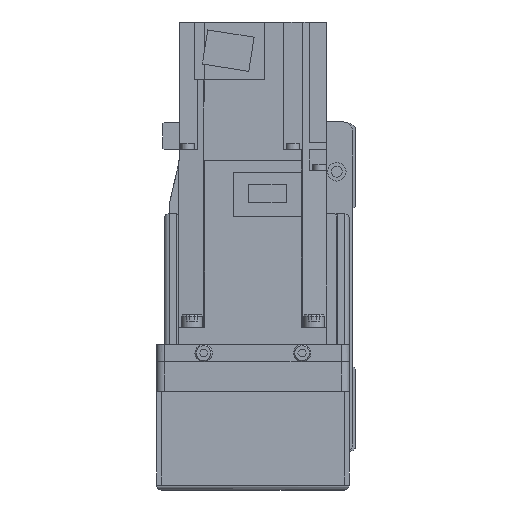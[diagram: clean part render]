
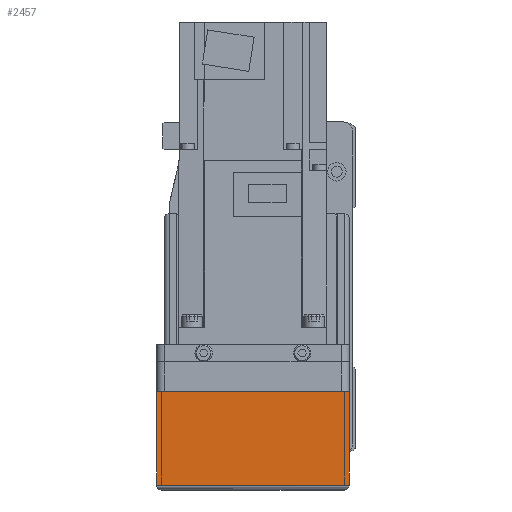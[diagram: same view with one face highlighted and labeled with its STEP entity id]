
A CAD part, left-side view. The second image highlights one B-rep face of the part: STEP entity #2457.
In plain terms, the highlighted planar face has unit normal (-1, 0, 0).
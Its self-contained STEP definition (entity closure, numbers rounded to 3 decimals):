
#2457 = ADVANCED_FACE( '', ( #5340 ), #5341, .F. );
#5340 = FACE_OUTER_BOUND( '', #8585, .T. );
#5341 = PLANE( '', #8586 );
#8585 = EDGE_LOOP( '', ( #15622, #15623, #15624, #15625 ) );
#8586 = AXIS2_PLACEMENT_3D( '', #15626, #15627, #15628 );
#15622 = ORIENTED_EDGE( '', *, *, #19296, .F. );
#15623 = ORIENTED_EDGE( '', *, *, #21220, .F. );
#15624 = ORIENTED_EDGE( '', *, *, #19207, .T. );
#15625 = ORIENTED_EDGE( '', *, *, #20889, .F. );
#15626 = CARTESIAN_POINT( '', ( -158., 36., 7. ) );
#15627 = DIRECTION( '', ( 1., 0., 0. ) );
#15628 = DIRECTION( '', ( 0., 0., -1. ) );
#19207 = EDGE_CURVE( '', #23217, #23222, #23224, .T. );
#19296 = EDGE_CURVE( '', #23175, #23372, #23373, .T. );
#20889 = EDGE_CURVE( '', #23372, #23222, #25772, .T. );
#21220 = EDGE_CURVE( '', #23217, #23175, #26199, .T. );
#23175 = VERTEX_POINT( '', #28846 );
#23217 = VERTEX_POINT( '', #28899 );
#23222 = VERTEX_POINT( '', #28905 );
#23224 = LINE( '', #28907, #28908 );
#23372 = VERTEX_POINT( '', #29270 );
#23373 = LINE( '', #29271, #29272 );
#25772 = LINE( '', #32896, #32897 );
#26199 = LINE( '', #33500, #33501 );
#28846 = CARTESIAN_POINT( '', ( -158., 39., -12.1 ) );
#28899 = CARTESIAN_POINT( '', ( -158., 39., -50. ) );
#28905 = CARTESIAN_POINT( '', ( -158., -39., -50. ) );
#28907 = CARTESIAN_POINT( '', ( -158., 40., -50. ) );
#28908 = VECTOR( '', #35290, 1000. );
#29270 = CARTESIAN_POINT( '', ( -158., -39., -12.1 ) );
#29271 = CARTESIAN_POINT( '', ( -158., 50., -12.1 ) );
#29272 = VECTOR( '', #35393, 1000. );
#32896 = CARTESIAN_POINT( '', ( -158., -39., -12.1 ) );
#32897 = VECTOR( '', #37411, 1000. );
#33500 = CARTESIAN_POINT( '', ( -158., 39., -50. ) );
#33501 = VECTOR( '', #37751, 1000. );
#35290 = DIRECTION( '', ( 0., -1., 0. ) );
#35393 = DIRECTION( '', ( 0., -1., 0. ) );
#37411 = DIRECTION( '', ( 0., 0., -1. ) );
#37751 = DIRECTION( '', ( 0., 0., 1. ) );
